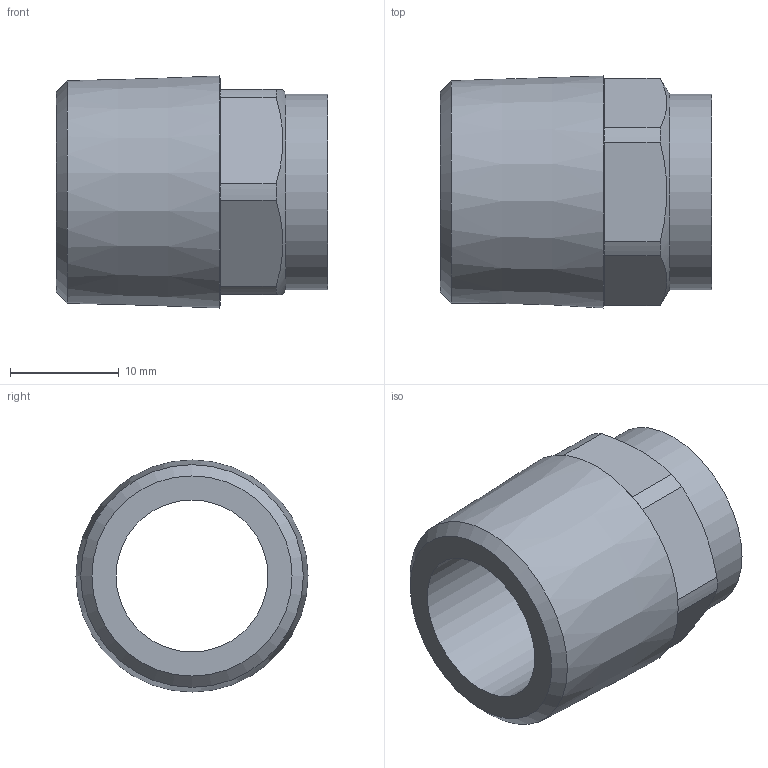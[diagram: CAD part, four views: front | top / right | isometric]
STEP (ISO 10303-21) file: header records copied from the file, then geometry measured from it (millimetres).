
FILE_DESCRIPTION((''),'2;1');
FILE_NAME('\\Lg50001\Groups\SANHA Legnica\Engineering\Public\RYSUNKI\SANHA POLSKA\4243G\step\14243_15-12(3).stp','2008-08-21T15:14:26',('pajchrowski'),(''),'Autodesk Inventor 2008','Autodesk Inventor 2008','');
FILE_SCHEMA(('AUTOMOTIVE_DESIGN { 1 0 10303 214 1 1 1 1 }'));
Length unit declared in the file: millimetre
Products named in the file (1): 14243_15-12(3)
Bounding box: 25 x 21.38 x 21.38 mm (x, y, z)
Volume: 3855.6 mm3; surface area: 3045.8 mm2
Topology: 1 solids, 1 shells, 28 faces, 60 edges, 35 vertices
Faces by surface type: plane 15, cylinder 9, cone 4
Full cylindrical faces by diameter (mm): 14 x1, 15.11 x1, 18 x1
Entity records: 722 total; most frequent: DIRECTION 130, CARTESIAN_POINT 125, ORIENTED_EDGE 102, AXIS2_PLACEMENT_3D 56, EDGE_CURVE 51, EDGE_LOOP 38, VERTEX_POINT 33, FACE_OUTER_BOUND 28
